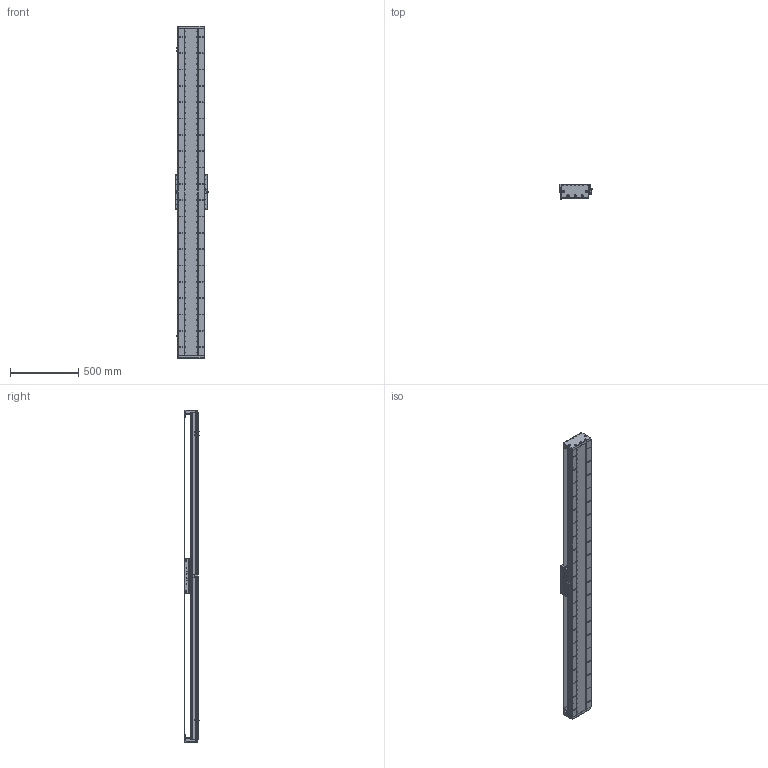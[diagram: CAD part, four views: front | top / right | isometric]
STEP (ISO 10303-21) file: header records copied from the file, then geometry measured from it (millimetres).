
FILE_DESCRIPTION (( 'STEP AP203' ), '1' );
FILE_NAME ('DA-C195-C3-T2100-C010-0.2 眻盄萇儂.STEP', '2025-08-15T01:34:18', ( '' ), ( '' ), 'SwSTEP 2.0', 'SolidWorks 2019', '' );
FILE_SCHEMA (( 'CONFIG_CONTROL_DESIGN' ));
Length unit declared in the file: millimetre
Products named in the file (15): DA95-HXJ-00 遣喳砎蝶; CU195-C3賑輸-俋楷; MS200 棠掑喜S315-T240; DA-C195-C3-T2100-C010-0.2 眻盄萇儂; 葩璃 DA95-GT-T-00; IU-CU195-L 菁釱絳寢; DA165-GYP-00 光电感应片(默认); IU-CU195-L-00 菁釱(L2400); DA-C195-GD-DB-H-00 傷啣; LMT黍杅芛; DA195詩湍裔啣; DA195詩湍嶺輸; DA195詩湍菜輸; PM-T45ㄗ侂狟ㄘ; DA195詩湍郪璃
Assembly tree (29 placements, depth 3):
  DA-C195-C3-T2100-C010-0.2 眻盄萇儂
    DA195詩湍郪璃
      DA195詩湍菜輸  x2
      DA195詩湍裔啣
      DA195詩湍嶺輸  x2
      DA95-HXJ-00 遣喳砎蝶  x8
      DA-C195-GD-DB-H-00 傷啣  x2
    IU-CU195-L 菁釱絳寢
      IU-CU195-L-00 菁釱(L2400)
      葩璃 DA95-GT-T-00  x4
    LMT黍杅芛
    MS200 棠掑喜S315-T240
    PM-T45ㄗ侂狟ㄘ  x3
    DA165-GYP-00 光电感应片(默认)
    CU195-C3賑輸-俋楷
Bounding box: 248 x 115.45 x 2440 mm (x, y, z)
Volume: 14525613.5 mm3; surface area: 4248980.4 mm2
Topology: 86 solids, 118 shells, 4244 faces, 11847 edges, 7457 vertices
Faces by surface type: cylinder 2282, plane 1360, cone 514, torus 52, sphere 36
Entity records: 134849 total; most frequent: CARTESIAN_POINT 35876, ORIENTED_EDGE 20610, DIRECTION 19982, EDGE_CURVE 10305, AXIS2_PLACEMENT_3D 7501, VERTEX_POINT 6659, LINE 4980, VECTOR 4980
